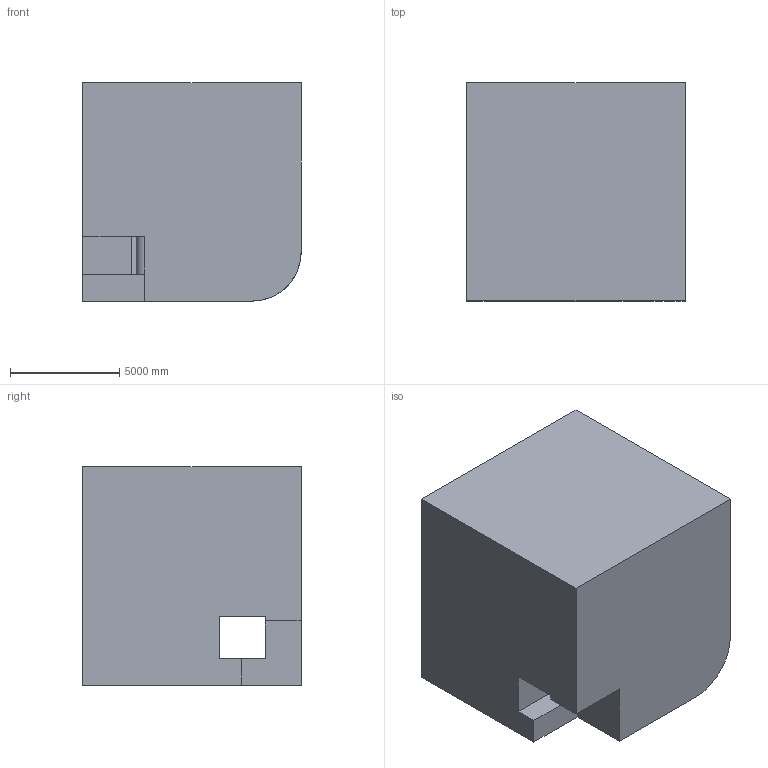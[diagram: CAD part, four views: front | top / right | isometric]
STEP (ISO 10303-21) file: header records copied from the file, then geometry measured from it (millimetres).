
FILE_DESCRIPTION (( 'STEP AP203' ), '1' );
FILE_NAME ('1512.STEP', '2022-08-18T14:56:54', ( 'user' ), ( '' ), 'SwSTEP 2.0', 'SolidWorks 2021', '' );
FILE_SCHEMA (( 'CONFIG_CONTROL_DESIGN' ));
Length unit declared in the file: centimetre
Products named in the file (1): 1512
Bounding box: 10000 x 10000 x 10000 mm (x, y, z)
Volume: 876598682176.2 mm3; surface area: 717029734 mm2
Topology: 1 solids, 1 shells, 30 faces, 87 edges, 58 vertices
Faces by surface type: plane 24, cylinder 6
Entity records: 1072 total; most frequent: CARTESIAN_POINT 176, ORIENTED_EDGE 174, DIRECTION 165, EDGE_CURVE 87, LINE 71, VECTOR 71, VERTEX_POINT 58, AXIS2_PLACEMENT_3D 47
